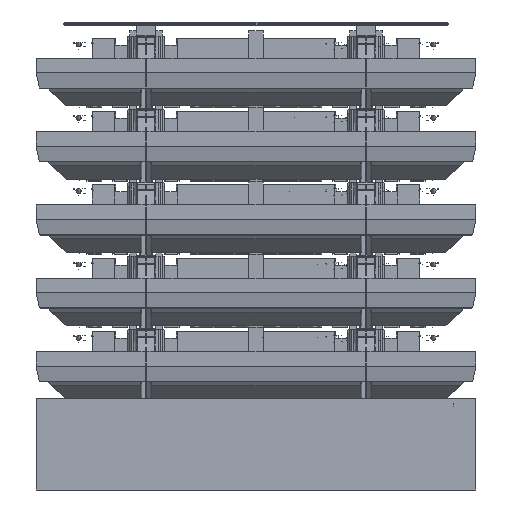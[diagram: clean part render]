
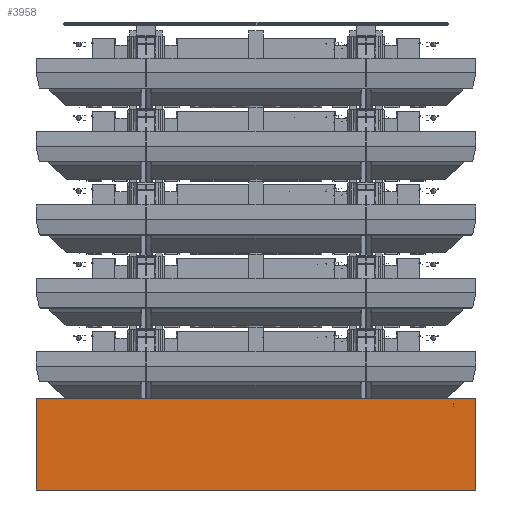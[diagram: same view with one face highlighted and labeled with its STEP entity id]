
A CAD part, front view. The second image highlights one B-rep face of the part: STEP entity #3958.
In plain terms, the highlighted planar face has unit normal (0, -1, 0).
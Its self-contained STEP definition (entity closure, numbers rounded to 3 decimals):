
#37=FACE_BOUND('',#37349,.T.);
#38=FACE_BOUND('',#37350,.T.);
#3958=ADVANCED_FACE('',(#20649,#37,#38),#253632,.T.);
#20649=FACE_OUTER_BOUND('',#37348,.T.);
#37348=EDGE_LOOP('',(#54698,#54699,#54700,#54701));
#37349=EDGE_LOOP('',(#54702));
#37350=EDGE_LOOP('',(#54703));
#54698=ORIENTED_EDGE('',*,*,#135685,.T.);
#54699=ORIENTED_EDGE('',*,*,#135686,.T.);
#54700=ORIENTED_EDGE('',*,*,#135687,.F.);
#54701=ORIENTED_EDGE('',*,*,#135688,.F.);
#54702=ORIENTED_EDGE('',*,*,#135727,.T.);
#54703=ORIENTED_EDGE('',*,*,#135728,.T.);
#135685=EDGE_CURVE('',#222066,#222067,#178753,.T.);
#135686=EDGE_CURVE('',#222067,#222062,#178754,.T.);
#135687=EDGE_CURVE('',#222063,#222062,#178755,.T.);
#135688=EDGE_CURVE('',#222066,#222063,#178756,.T.);
#135727=EDGE_CURVE('',#222096,#222096,#203392,.T.);
#135728=EDGE_CURVE('',#222097,#222097,#203393,.T.);
#178753=B_SPLINE_CURVE_WITH_KNOTS('',1,(#295874,#295875),.UNSPECIFIED.,
 .F.,.F.,(2,2),(0.,1200.),.UNSPECIFIED.);
#178754=B_SPLINE_CURVE_WITH_KNOTS('',1,(#295876,#295877),.UNSPECIFIED.,
 .F.,.F.,(2,2),(0.,250.),.UNSPECIFIED.);
#178755=B_SPLINE_CURVE_WITH_KNOTS('',1,(#295878,#295879),.UNSPECIFIED.,
 .F.,.F.,(2,2),(0.,1200.),.UNSPECIFIED.);
#178756=B_SPLINE_CURVE_WITH_KNOTS('',1,(#295880,#295881),.UNSPECIFIED.,
 .F.,.F.,(2,2),(0.,250.),.UNSPECIFIED.);
#203392=(
BOUNDED_CURVE()
B_SPLINE_CURVE(2,(#295980,#295981,#295982,#295983,#295984,#295985,#295986,
#295987,#295988),.UNSPECIFIED.,.T.,.F.)
B_SPLINE_CURVE_WITH_KNOTS((3,2,2,2,3),(0.,10.21,20.42,
30.631,40.841),.UNSPECIFIED.)
CURVE()
GEOMETRIC_REPRESENTATION_ITEM()
RATIONAL_B_SPLINE_CURVE((1.,0.707,1.,0.707,1.,0.707,
1.,0.707,1.))
REPRESENTATION_ITEM('')
);
#203393=(
BOUNDED_CURVE()
B_SPLINE_CURVE(2,(#295989,#295990,#295991,#295992,#295993,#295994,#295995,
#295996,#295997),.UNSPECIFIED.,.T.,.F.)
B_SPLINE_CURVE_WITH_KNOTS((3,2,2,2,3),(0.,10.21,20.42,
30.631,40.841),.UNSPECIFIED.)
CURVE()
GEOMETRIC_REPRESENTATION_ITEM()
RATIONAL_B_SPLINE_CURVE((1.,0.707,1.,0.707,1.,0.707,
1.,0.707,1.))
REPRESENTATION_ITEM('')
);
#222062=VERTEX_POINT('',#295814);
#222063=VERTEX_POINT('',#295815);
#222066=VERTEX_POINT('',#295818);
#222067=VERTEX_POINT('',#295819);
#222096=VERTEX_POINT('',#295848);
#222097=VERTEX_POINT('',#295849);
#253632=PLANE('',#262824);
#262824=AXIS2_PLACEMENT_3D('',#295801,#276979,$);
#276979=DIRECTION('',(0.,-1.,0.));
#295801=CARTESIAN_POINT('',(-2939.362,352.576,-322.));
#295814=CARTESIAN_POINT('',(-1739.362,352.576,-72.));
#295815=CARTESIAN_POINT('',(-2939.362,352.576,-72.));
#295818=CARTESIAN_POINT('',(-2939.362,352.576,-322.));
#295819=CARTESIAN_POINT('',(-1739.362,352.576,-322.));
#295848=CARTESIAN_POINT('',(-1792.862,352.576,-93.5));
#295849=CARTESIAN_POINT('',(-2885.862,352.576,-93.5));
#295874=CARTESIAN_POINT('',(-2939.362,352.576,-322.));
#295875=CARTESIAN_POINT('',(-1739.362,352.576,-322.));
#295876=CARTESIAN_POINT('',(-1739.362,352.576,-322.));
#295877=CARTESIAN_POINT('',(-1739.362,352.576,-72.));
#295878=CARTESIAN_POINT('',(-2939.362,352.576,-72.));
#295879=CARTESIAN_POINT('',(-1739.362,352.576,-72.));
#295880=CARTESIAN_POINT('',(-2939.362,352.576,-322.));
#295881=CARTESIAN_POINT('',(-2939.362,352.576,-72.));
#295980=CARTESIAN_POINT('',(-1792.862,352.576,-93.5));
#295981=CARTESIAN_POINT('',(-1792.862,352.576,-100.));
#295982=CARTESIAN_POINT('',(-1799.362,352.576,-100.));
#295983=CARTESIAN_POINT('',(-1805.862,352.576,-100.));
#295984=CARTESIAN_POINT('',(-1805.862,352.576,-93.5));
#295985=CARTESIAN_POINT('',(-1805.862,352.576,-87.));
#295986=CARTESIAN_POINT('',(-1799.362,352.576,-87.));
#295987=CARTESIAN_POINT('',(-1792.862,352.576,-87.));
#295988=CARTESIAN_POINT('',(-1792.862,352.576,-93.5));
#295989=CARTESIAN_POINT('',(-2885.862,352.576,-93.5));
#295990=CARTESIAN_POINT('',(-2885.862,352.576,-87.));
#295991=CARTESIAN_POINT('',(-2879.362,352.576,-87.));
#295992=CARTESIAN_POINT('',(-2872.862,352.576,-87.));
#295993=CARTESIAN_POINT('',(-2872.862,352.576,-93.5));
#295994=CARTESIAN_POINT('',(-2872.862,352.576,-100.));
#295995=CARTESIAN_POINT('',(-2879.362,352.576,-100.));
#295996=CARTESIAN_POINT('',(-2885.862,352.576,-100.));
#295997=CARTESIAN_POINT('',(-2885.862,352.576,-93.5));
